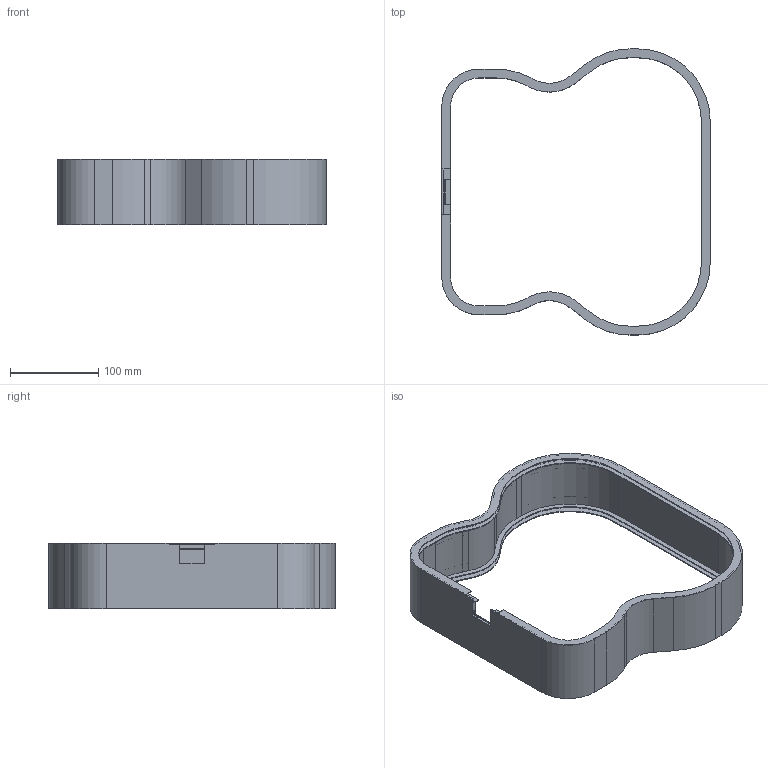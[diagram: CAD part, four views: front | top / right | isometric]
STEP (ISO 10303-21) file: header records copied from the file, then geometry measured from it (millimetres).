
FILE_DESCRIPTION(('STEP AP203'), '1');
FILE_NAME('ðåçîíàòîð', '', ('UNSPECIFIED'), ('UNSPECIFIED'), 'ASCON STEP Converter 1.3', 'ASCON Math Kernel', '');
FILE_SCHEMA(('CONFIG_CONTROL_DESIGN'));
Length unit declared in the file: millimetre
Bounding box: 304 x 324 x 74 mm (x, y, z)
Volume: 311285.8 mm3; surface area: 323029.8 mm2
Topology: 1 solids, 1 shells, 221 faces, 652 edges, 434 vertices
Faces by surface type: plane 121, cylinder 100
Entity records: 9230 total; most frequent: CARTESIAN_POINT 1308, ORIENTED_EDGE 1304, DIRECTION 1296, EDGE_CURVE 652, LINE 452, VECTOR 452, VERTEX_POINT 434, AXIS2_PLACEMENT_3D 422
